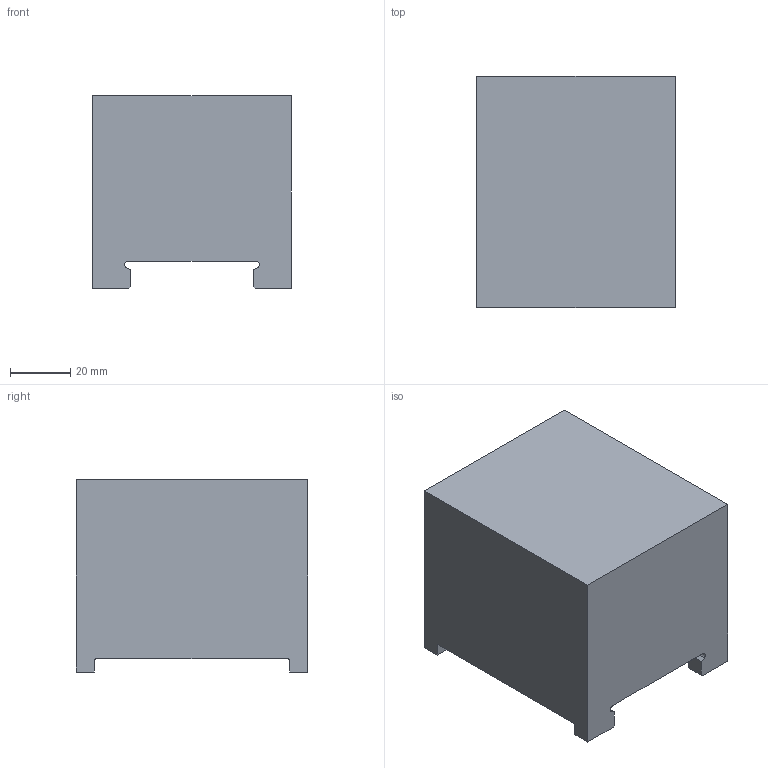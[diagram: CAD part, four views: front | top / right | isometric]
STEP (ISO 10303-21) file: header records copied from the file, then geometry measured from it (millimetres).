
FILE_DESCRIPTION (( 'STEP AP203' ), '1' );
FILE_NAME ('682410-64.STEP', '2020-07-16T15:19:30', ( '' ), ( '' ), 'SwSTEP 2.0', 'SolidWorks 2018', '' );
FILE_SCHEMA (( 'CONFIG_CONTROL_DESIGN' ));
Length unit declared in the file: millimetre
Products named in the file (2): 682410-64
Bounding box: 66 x 77 x 64 mm (x, y, z)
Volume: 289122.8 mm3; surface area: 28563.9 mm2
Topology: 1 solids, 1 shells, 463 faces, 1233 edges, 822 vertices
Faces by surface type: plane 302, bspline 151, cylinder 10
Entity records: 22953 total; most frequent: CARTESIAN_POINT 12312, ORIENTED_EDGE 2460, DIRECTION 1560, EDGE_CURVE 1230, LINE 908, VECTOR 908, VERTEX_POINT 822, EDGE_LOOP 516
